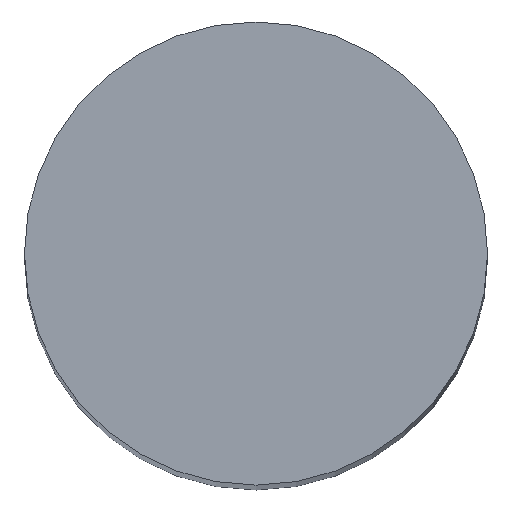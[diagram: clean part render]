
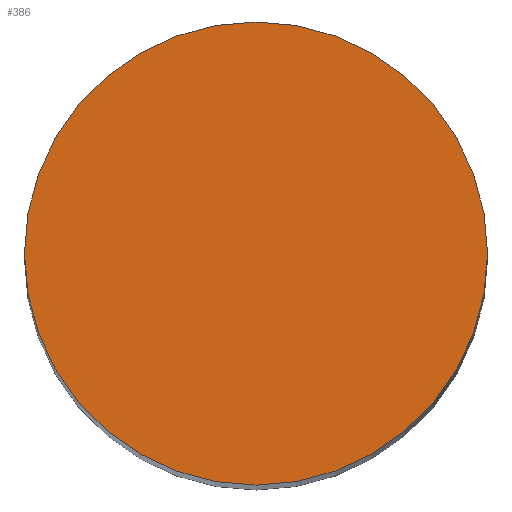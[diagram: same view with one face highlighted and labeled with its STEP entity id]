
A CAD part, top view. The second image highlights one B-rep face of the part: STEP entity #386.
In plain terms, the highlighted planar face has unit normal (0, 0, 1).
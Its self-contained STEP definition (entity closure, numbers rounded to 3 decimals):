
#327=AXIS2_PLACEMENT_3D('Circle Axis2P3D',#325,#326,$) ;
#354=AXIS2_PLACEMENT_3D('Circle Axis2P3D',#352,#353,$) ;
#380=AXIS2_PLACEMENT_3D('Plane Axis2P3D',#377,#378,#379) ;
#322=CARTESIAN_POINT('Vertex',(3.925,0.,24.5)) ;
#325=CARTESIAN_POINT('Axis2P3D Location',(0.,0.,24.5)) ;
#329=CARTESIAN_POINT('Vertex',(-3.925,0.,24.5)) ;
#352=CARTESIAN_POINT('Axis2P3D Location',(0.,0.,24.5)) ;
#377=CARTESIAN_POINT('Axis2P3D Location',(0.,0.,24.5)) ;
#326=DIRECTION('Axis2P3D Direction',(0.,0.,-1.)) ;
#353=DIRECTION('Axis2P3D Direction',(0.,0.,-1.)) ;
#378=DIRECTION('Axis2P3D Direction',(0.,0.,1.)) ;
#379=DIRECTION('Axis2P3D XDirection',(1.,0.,0.)) ;
#383=ORIENTED_EDGE('',*,*,#356,.T.) ;
#384=ORIENTED_EDGE('',*,*,#331,.T.) ;
#386=ADVANCED_FACE('\X2\96F64EF651E04F554F53\X0\',(#385),#381,.T.) ;
#328=CIRCLE('generated circle',#327,3.925) ;
#355=CIRCLE('generated circle',#354,3.925) ;
#331=EDGE_CURVE('',#330,#323,#328,.F.) ;
#356=EDGE_CURVE('',#323,#330,#355,.F.) ;
#382=EDGE_LOOP('',(#383,#384)) ;
#385=FACE_OUTER_BOUND('',#382,.T.) ;
#381=PLANE('Plane',#380) ;
#323=VERTEX_POINT('',#322) ;
#330=VERTEX_POINT('',#329) ;
